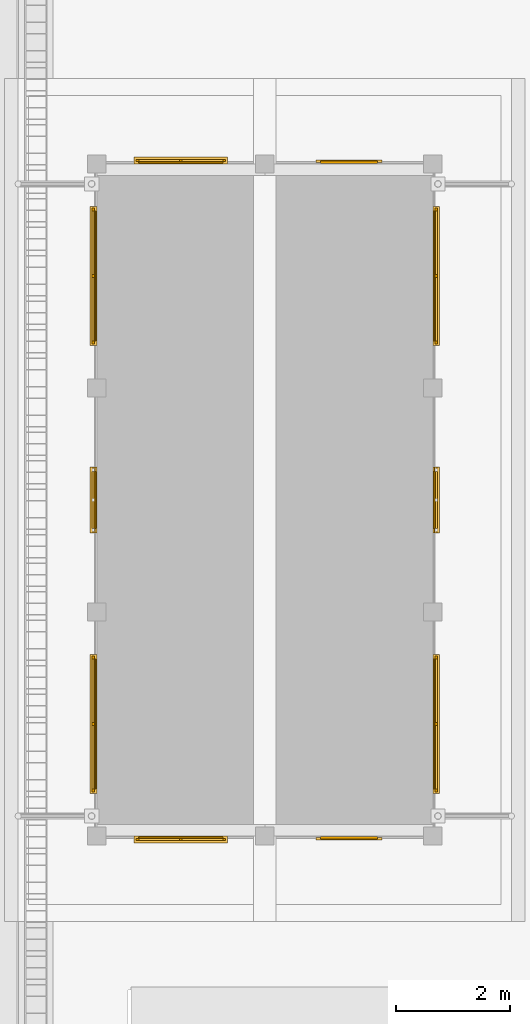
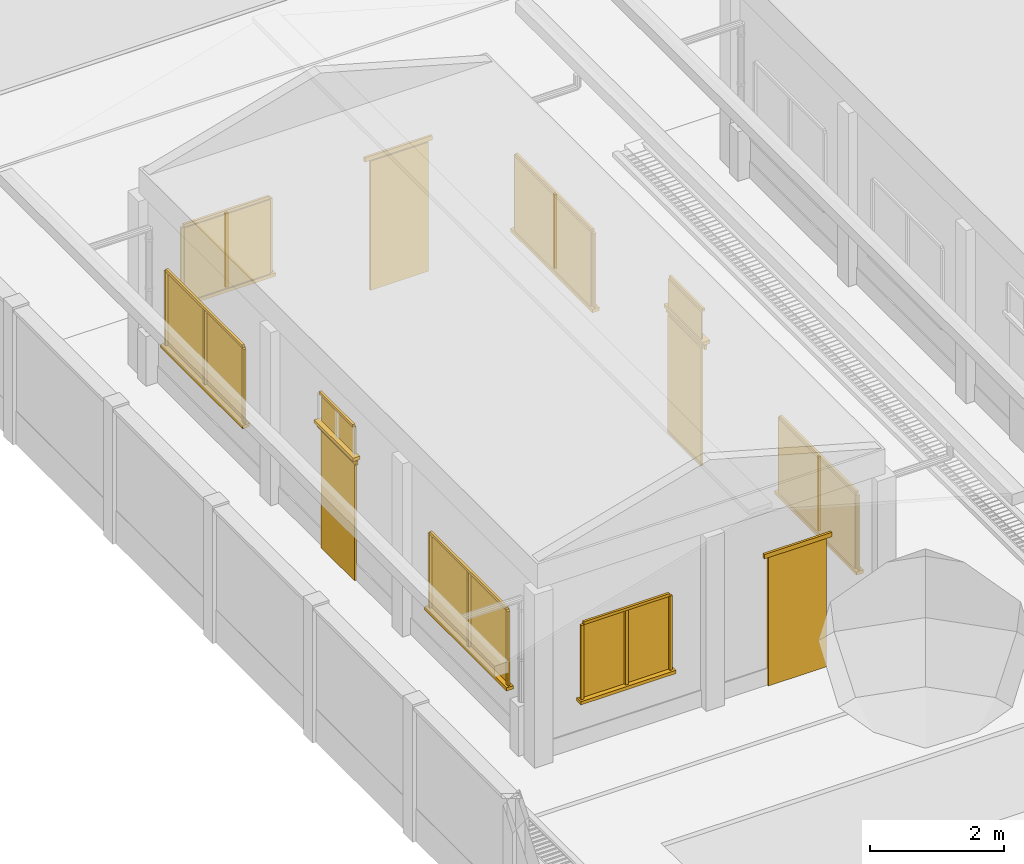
# One storey, part 48 of 166: 42 windows, 8 doors.
"""IFC2X3 building model written with IfcOpenShell, lengths in metres."""

from ifc_helpers import new_model, si_unit, origin, origin_with_axes, place, context, subcontext, project, spatial, faceted_brep, element, save


model = new_model("IFC2X3")

# Units and contexts
model_context = context("Model", 3, precision=1e-05, world=origin_with_axes())
body_context = subcontext(model_context, "Body", "Model", "MODEL_VIEW")
ifc_project = project(units=[si_unit("LENGTHUNIT", "METRE"), si_unit("AREAUNIT", "SQUARE_METRE"), si_unit("VOLUMEUNIT", "CUBIC_METRE"), si_unit("PLANEANGLEUNIT", "RADIAN")], contexts=[model_context])

# Site, building, storey
site_placement = place(None, origin_with_axes())
site = spatial("IfcSite", under=ifc_project, at=site_placement, Name="Predio Los Mangos - Morales, San Martín", CompositionType="ELEMENT")
building_placement = place(site_placement, origin())
building = spatial("IfcBuilding", under=site, at=building_placement, Name="Hogar de Refugio Temporal", CompositionType="ELEMENT")
storey_placement = place(building_placement, origin())
storey = spatial("IfcBuildingStorey", under=building, at=storey_placement, Name="NIVEL 1 (NPT +0.00)", CompositionType="ELEMENT", Elevation=0.0)

# Windows
window_1_placement = place(storey_placement, origin())
element("IfcWindow", 1, at=window_1_placement, inside=storey, Name="E-09_vg0_vid", ObjectType="Ventana", context=body_context, shape_type="Brep", body=[
    faceted_brep([(4.2375, 75.16, 1.05), (4.2375, 75.18, 1.05), (5.7125, 75.18, 1.05), (5.7125, 75.16, 1.05), (4.2375, 75.16, 2.4), (5.7125, 75.16, 2.4), (5.7125, 75.18, 2.4), (4.2375, 75.18, 2.4)], [[[0, 1, 2, 3]], [[4, 5, 6, 7]], [[0, 3, 5, 4]], [[3, 2, 6, 5]], [[2, 1, 7, 6]], [[1, 0, 4, 7]]]),
])
window_2_placement = place(storey_placement, origin())
element("IfcWindow", 2, at=window_2_placement, inside=storey, Name="E-09_vg0_m", ObjectType="Ventana", context=body_context, shape_type="Brep", body=[
    faceted_brep([(4.1875, 75.12, 1.05), (4.1875, 75.16, 1.05), (4.2375, 75.16, 1.05), (4.2375, 75.12, 1.05), (4.1875, 75.12, 2.4), (4.2375, 75.12, 2.4), (4.2375, 75.16, 2.4), (4.1875, 75.16, 2.4)], [[[0, 1, 2, 3]], [[4, 5, 6, 7]], [[0, 3, 5, 4]], [[3, 2, 6, 5]], [[2, 1, 7, 6]], [[1, 0, 4, 7]]]),
])
window_3_placement = place(storey_placement, origin())
element("IfcWindow", 3, at=window_3_placement, inside=storey, Name="E-09_vg0_m", ObjectType="Ventana", context=body_context, shape_type="Brep", body=[
    faceted_brep([(5.7125, 75.12, 1.05), (5.7125, 75.16, 1.05), (5.7625, 75.16, 1.05), (5.7625, 75.12, 1.05), (5.7125, 75.12, 2.4), (5.7625, 75.12, 2.4), (5.7625, 75.16, 2.4), (5.7125, 75.16, 2.4)], [[[0, 1, 2, 3]], [[4, 5, 6, 7]], [[0, 3, 5, 4]], [[3, 2, 6, 5]], [[2, 1, 7, 6]], [[1, 0, 4, 7]]]),
])
window_4_placement = place(storey_placement, origin())
element("IfcWindow", 4, at=window_4_placement, inside=storey, Name="E-09_vg0_m", ObjectType="Ventana", context=body_context, shape_type="Brep", body=[
    faceted_brep([(4.2375, 75.12, 2.4), (4.2375, 75.16, 2.4), (5.7125, 75.16, 2.4), (5.7125, 75.12, 2.4), (4.2375, 75.12, 2.45), (5.7125, 75.12, 2.45), (5.7125, 75.16, 2.45), (4.2375, 75.16, 2.45)], [[[0, 1, 2, 3]], [[4, 5, 6, 7]], [[0, 3, 5, 4]], [[3, 2, 6, 5]], [[2, 1, 7, 6]], [[1, 0, 4, 7]]]),
])
window_5_placement = place(storey_placement, origin())
element("IfcWindow", 5, at=window_5_placement, inside=storey, Name="E-09_vg0_m", ObjectType="Ventana", context=body_context, shape_type="Brep", body=[
    faceted_brep([(4.95, 75.12, 1.05), (4.95, 75.16, 1.05), (5.0, 75.16, 1.05), (5.0, 75.12, 1.05), (4.95, 75.12, 2.4), (5.0, 75.12, 2.4), (5.0, 75.16, 2.4), (4.95, 75.16, 2.4)], [[[0, 1, 2, 3]], [[4, 5, 6, 7]], [[0, 3, 5, 4]], [[3, 2, 6, 5]], [[2, 1, 7, 6]], [[1, 0, 4, 7]]]),
])
window_6_placement = place(storey_placement, origin())
element("IfcWindow", 6, at=window_6_placement, inside=storey, Name="E-09_vg0_alf", ObjectType="Ventana", context=body_context, shape_type="Brep", body=[
    faceted_brep([(4.1575, 75.2, 0.99), (4.1575, 75.08, 0.99), (5.7925, 75.08, 0.99), (5.7925, 75.2, 0.99), (4.1575, 75.2, 1.05), (5.7925, 75.2, 1.05), (5.7925, 75.08, 1.05), (4.1575, 75.08, 1.05)], [[[0, 1, 2, 3]], [[4, 5, 6, 7]], [[0, 3, 5, 4]], [[3, 2, 6, 5]], [[2, 1, 7, 6]], [[1, 0, 4, 7]]]),
])

# Doors
door_1_placement = place(storey_placement, origin())
element("IfcDoor", 7, at=door_1_placement, inside=storey, Name="E-09_pp", ObjectType="Puerta", context=body_context, shape_type="Brep", body=[
    faceted_brep([(7.425, 75.15, 0.15), (7.425, 75.19, 0.15), (8.425, 75.19, 0.15), (8.425, 75.15, 0.15), (7.425, 75.15, 2.5), (8.425, 75.15, 2.5), (8.425, 75.19, 2.5), (7.425, 75.19, 2.5)], [[[0, 1, 2, 3]], [[4, 5, 6, 7]], [[0, 3, 5, 4]], [[3, 2, 6, 5]], [[2, 1, 7, 6]], [[1, 0, 4, 7]]]),
])
door_2_placement = place(storey_placement, origin())
element("IfcDoor", 8, at=door_2_placement, inside=storey, Name="E-09_pp_marco", ObjectType="Puerta", context=body_context, shape_type="Brep", body=[
    faceted_brep([(7.345, 75.13, 2.5), (7.345, 75.17, 2.5), (8.505, 75.17, 2.5), (8.505, 75.13, 2.5), (7.345, 75.13, 2.58), (8.505, 75.13, 2.58), (8.505, 75.17, 2.58), (7.345, 75.17, 2.58)], [[[0, 1, 2, 3]], [[4, 5, 6, 7]], [[0, 3, 5, 4]], [[3, 2, 6, 5]], [[2, 1, 7, 6]], [[1, 0, 4, 7]]]),
])

# Windows
window_7_placement = place(storey_placement, origin())
element("IfcWindow", 9, at=window_7_placement, inside=storey, Name="E-09_vg0_vid", ObjectType="Ventana", context=body_context, shape_type="Brep", body=[
    faceted_brep([(4.2375, 87.02, 1.05), (4.2375, 87.04, 1.05), (5.7125, 87.04, 1.05), (5.7125, 87.02, 1.05), (4.2375, 87.02, 2.4), (5.7125, 87.02, 2.4), (5.7125, 87.04, 2.4), (4.2375, 87.04, 2.4)], [[[0, 1, 2, 3]], [[4, 5, 6, 7]], [[0, 3, 5, 4]], [[3, 2, 6, 5]], [[2, 1, 7, 6]], [[1, 0, 4, 7]]]),
])
window_8_placement = place(storey_placement, origin())
element("IfcWindow", 10, at=window_8_placement, inside=storey, Name="E-09_vg0_m", ObjectType="Ventana", context=body_context, shape_type="Brep", body=[
    faceted_brep([(4.1875, 87.04, 1.05), (4.1875, 87.08, 1.05), (4.2375, 87.08, 1.05), (4.2375, 87.04, 1.05), (4.1875, 87.04, 2.4), (4.2375, 87.04, 2.4), (4.2375, 87.08, 2.4), (4.1875, 87.08, 2.4)], [[[0, 1, 2, 3]], [[4, 5, 6, 7]], [[0, 3, 5, 4]], [[3, 2, 6, 5]], [[2, 1, 7, 6]], [[1, 0, 4, 7]]]),
])
window_9_placement = place(storey_placement, origin())
element("IfcWindow", 11, at=window_9_placement, inside=storey, Name="E-09_vg0_m", ObjectType="Ventana", context=body_context, shape_type="Brep", body=[
    faceted_brep([(5.7125, 87.04, 1.05), (5.7125, 87.08, 1.05), (5.7625, 87.08, 1.05), (5.7625, 87.04, 1.05), (5.7125, 87.04, 2.4), (5.7625, 87.04, 2.4), (5.7625, 87.08, 2.4), (5.7125, 87.08, 2.4)], [[[0, 1, 2, 3]], [[4, 5, 6, 7]], [[0, 3, 5, 4]], [[3, 2, 6, 5]], [[2, 1, 7, 6]], [[1, 0, 4, 7]]]),
])
window_10_placement = place(storey_placement, origin())
element("IfcWindow", 12, at=window_10_placement, inside=storey, Name="E-09_vg0_m", ObjectType="Ventana", context=body_context, shape_type="Brep", body=[
    faceted_brep([(4.2375, 87.04, 2.4), (4.2375, 87.08, 2.4), (5.7125, 87.08, 2.4), (5.7125, 87.04, 2.4), (4.2375, 87.04, 2.45), (5.7125, 87.04, 2.45), (5.7125, 87.08, 2.45), (4.2375, 87.08, 2.45)], [[[0, 1, 2, 3]], [[4, 5, 6, 7]], [[0, 3, 5, 4]], [[3, 2, 6, 5]], [[2, 1, 7, 6]], [[1, 0, 4, 7]]]),
])
window_11_placement = place(storey_placement, origin())
element("IfcWindow", 13, at=window_11_placement, inside=storey, Name="E-09_vg0_m", ObjectType="Ventana", context=body_context, shape_type="Brep", body=[
    faceted_brep([(4.95, 87.04, 1.05), (4.95, 87.08, 1.05), (5.0, 87.08, 1.05), (5.0, 87.04, 1.05), (4.95, 87.04, 2.4), (5.0, 87.04, 2.4), (5.0, 87.08, 2.4), (4.95, 87.08, 2.4)], [[[0, 1, 2, 3]], [[4, 5, 6, 7]], [[0, 3, 5, 4]], [[3, 2, 6, 5]], [[2, 1, 7, 6]], [[1, 0, 4, 7]]]),
])
window_12_placement = place(storey_placement, origin())
element("IfcWindow", 14, at=window_12_placement, inside=storey, Name="E-09_vg0_alf", ObjectType="Ventana", context=body_context, shape_type="Brep", body=[
    faceted_brep([(4.1575, 87.0, 0.99), (4.1575, 87.12, 0.99), (5.7925, 87.12, 0.99), (5.7925, 87.0, 0.99), (4.1575, 87.0, 1.05), (5.7925, 87.0, 1.05), (5.7925, 87.12, 1.05), (4.1575, 87.12, 1.05)], [[[0, 1, 2, 3]], [[4, 5, 6, 7]], [[0, 3, 5, 4]], [[3, 2, 6, 5]], [[2, 1, 7, 6]], [[1, 0, 4, 7]]]),
])

# Doors
door_3_placement = place(storey_placement, origin())
element("IfcDoor", 15, at=door_3_placement, inside=storey, Name="E-09_pp", ObjectType="Puerta", context=body_context, shape_type="Brep", body=[
    faceted_brep([(7.425, 87.01, 0.15), (7.425, 87.05, 0.15), (8.425, 87.05, 0.15), (8.425, 87.01, 0.15), (7.425, 87.01, 2.5), (8.425, 87.01, 2.5), (8.425, 87.05, 2.5), (7.425, 87.05, 2.5)], [[[0, 1, 2, 3]], [[4, 5, 6, 7]], [[0, 3, 5, 4]], [[3, 2, 6, 5]], [[2, 1, 7, 6]], [[1, 0, 4, 7]]]),
])
door_4_placement = place(storey_placement, origin())
element("IfcDoor", 16, at=door_4_placement, inside=storey, Name="E-09_pp_marco", ObjectType="Puerta", context=body_context, shape_type="Brep", body=[
    faceted_brep([(7.345, 87.03, 2.5), (7.345, 87.07, 2.5), (8.505, 87.07, 2.5), (8.505, 87.03, 2.5), (7.345, 87.03, 2.58), (8.505, 87.03, 2.58), (8.505, 87.07, 2.58), (7.345, 87.07, 2.58)], [[[0, 1, 2, 3]], [[4, 5, 6, 7]], [[0, 3, 5, 4]], [[3, 2, 6, 5]], [[2, 1, 7, 6]], [[1, 0, 4, 7]]]),
])

# Windows
window_13_placement = place(storey_placement, origin())
element("IfcWindow", 17, at=window_13_placement, inside=storey, Name="E-09_v0_vid", ObjectType="Ventana", context=body_context, shape_type="Brep", body=[
    faceted_brep([(3.46, 76.026, 1.05), (3.46, 78.3073, 1.05), (3.48, 78.3073, 1.05), (3.48, 76.026, 1.05), (3.46, 76.026, 2.4), (3.48, 76.026, 2.4), (3.48, 78.3073, 2.4), (3.46, 78.3073, 2.4)], [[[0, 1, 2, 3]], [[4, 5, 6, 7]], [[0, 3, 5, 4]], [[3, 2, 6, 5]], [[2, 1, 7, 6]], [[1, 0, 4, 7]]]),
])
window_14_placement = place(storey_placement, origin())
element("IfcWindow", 18, at=window_14_placement, inside=storey, Name="E-09_v0_m", ObjectType="Ventana", context=body_context, shape_type="Brep", body=[
    faceted_brep([(3.42, 75.976, 1.05), (3.42, 76.026, 1.05), (3.46, 76.026, 1.05), (3.46, 75.976, 1.05), (3.42, 75.976, 2.4), (3.46, 75.976, 2.4), (3.46, 76.026, 2.4), (3.42, 76.026, 2.4)], [[[0, 1, 2, 3]], [[4, 5, 6, 7]], [[0, 3, 5, 4]], [[3, 2, 6, 5]], [[2, 1, 7, 6]], [[1, 0, 4, 7]]]),
])
window_15_placement = place(storey_placement, origin())
element("IfcWindow", 19, at=window_15_placement, inside=storey, Name="E-09_v0_m", ObjectType="Ventana", context=body_context, shape_type="Brep", body=[
    faceted_brep([(3.42, 78.3073, 1.05), (3.42, 78.3573, 1.05), (3.46, 78.3573, 1.05), (3.46, 78.3073, 1.05), (3.42, 78.3073, 2.4), (3.46, 78.3073, 2.4), (3.46, 78.3573, 2.4), (3.42, 78.3573, 2.4)], [[[0, 1, 2, 3]], [[4, 5, 6, 7]], [[0, 3, 5, 4]], [[3, 2, 6, 5]], [[2, 1, 7, 6]], [[1, 0, 4, 7]]]),
])
window_16_placement = place(storey_placement, origin())
element("IfcWindow", 20, at=window_16_placement, inside=storey, Name="E-09_v0_m", ObjectType="Ventana", context=body_context, shape_type="Brep", body=[
    faceted_brep([(3.42, 76.026, 2.4), (3.42, 78.3073, 2.4), (3.46, 78.3073, 2.4), (3.46, 76.026, 2.4), (3.42, 76.026, 2.45), (3.46, 76.026, 2.45), (3.46, 78.3073, 2.45), (3.42, 78.3073, 2.45)], [[[0, 1, 2, 3]], [[4, 5, 6, 7]], [[0, 3, 5, 4]], [[3, 2, 6, 5]], [[2, 1, 7, 6]], [[1, 0, 4, 7]]]),
])
window_17_placement = place(storey_placement, origin())
element("IfcWindow", 21, at=window_17_placement, inside=storey, Name="E-09_v0_m", ObjectType="Ventana", context=body_context, shape_type="Brep", body=[
    faceted_brep([(3.42, 77.1417, 1.05), (3.42, 77.1917, 1.05), (3.46, 77.1917, 1.05), (3.46, 77.1417, 1.05), (3.42, 77.1417, 2.4), (3.46, 77.1417, 2.4), (3.46, 77.1917, 2.4), (3.42, 77.1917, 2.4)], [[[0, 1, 2, 3]], [[4, 5, 6, 7]], [[0, 3, 5, 4]], [[3, 2, 6, 5]], [[2, 1, 7, 6]], [[1, 0, 4, 7]]]),
])
window_18_placement = place(storey_placement, origin())
element("IfcWindow", 22, at=window_18_placement, inside=storey, Name="E-09_v0_alf", ObjectType="Ventana", context=body_context, shape_type="Brep", body=[
    faceted_brep([(3.5, 75.946, 0.99), (3.5, 78.3873, 0.99), (3.38, 78.3873, 0.99), (3.38, 75.946, 0.99), (3.5, 75.946, 1.05), (3.38, 75.946, 1.05), (3.38, 78.3873, 1.05), (3.5, 78.3873, 1.05)], [[[0, 1, 2, 3]], [[4, 5, 6, 7]], [[0, 3, 5, 4]], [[3, 2, 6, 5]], [[2, 1, 7, 6]], [[1, 0, 4, 7]]]),
])

# Doors
door_5_placement = place(storey_placement, origin())
element("IfcDoor", 23, at=door_5_placement, inside=storey, Name="E-09_p1", ObjectType="Puerta", context=body_context, shape_type="Brep", body=[
    faceted_brep([(3.45, 80.6, 0.15), (3.45, 81.6, 0.15), (3.49, 81.6, 0.15), (3.49, 80.6, 0.15), (3.45, 80.6, 2.3), (3.49, 80.6, 2.3), (3.49, 81.6, 2.3), (3.45, 81.6, 2.3)], [[[0, 1, 2, 3]], [[4, 5, 6, 7]], [[0, 3, 5, 4]], [[3, 2, 6, 5]], [[2, 1, 7, 6]], [[1, 0, 4, 7]]]),
])
door_6_placement = place(storey_placement, origin())
element("IfcDoor", 24, at=door_6_placement, inside=storey, Name="E-09_p1_marco", ObjectType="Puerta", context=body_context, shape_type="Brep", body=[
    faceted_brep([(3.43, 80.52, 2.3), (3.43, 81.68, 2.3), (3.47, 81.68, 2.3), (3.47, 80.52, 2.3), (3.43, 80.52, 2.38), (3.47, 80.52, 2.38), (3.47, 81.68, 2.38), (3.43, 81.68, 2.38)], [[[0, 1, 2, 3]], [[4, 5, 6, 7]], [[0, 3, 5, 4]], [[3, 2, 6, 5]], [[2, 1, 7, 6]], [[1, 0, 4, 7]]]),
])

# Windows
window_19_placement = place(storey_placement, origin())
element("IfcWindow", 25, at=window_19_placement, inside=storey, Name="E-09_vt1_vid", ObjectType="Ventana", context=body_context, shape_type="Brep", body=[
    faceted_brep([(3.46, 80.6, 2.45), (3.46, 81.6, 2.45), (3.48, 81.6, 2.45), (3.48, 80.6, 2.45), (3.46, 80.6, 2.95), (3.48, 80.6, 2.95), (3.48, 81.6, 2.95), (3.46, 81.6, 2.95)], [[[0, 1, 2, 3]], [[4, 5, 6, 7]], [[0, 3, 5, 4]], [[3, 2, 6, 5]], [[2, 1, 7, 6]], [[1, 0, 4, 7]]]),
])
window_20_placement = place(storey_placement, origin())
element("IfcWindow", 26, at=window_20_placement, inside=storey, Name="E-09_vt1_m", ObjectType="Ventana", context=body_context, shape_type="Brep", body=[
    faceted_brep([(3.42, 80.6, 2.95), (3.42, 81.6, 2.95), (3.46, 81.6, 2.95), (3.46, 80.6, 2.95), (3.42, 80.6, 3.0), (3.46, 80.6, 3.0), (3.46, 81.6, 3.0), (3.42, 81.6, 3.0)], [[[0, 1, 2, 3]], [[4, 5, 6, 7]], [[0, 3, 5, 4]], [[3, 2, 6, 5]], [[2, 1, 7, 6]], [[1, 0, 4, 7]]]),
])
window_21_placement = place(storey_placement, origin())
element("IfcWindow", 27, at=window_21_placement, inside=storey, Name="E-09_vt1_alf", ObjectType="Ventana", context=body_context, shape_type="Brep", body=[
    faceted_brep([(3.5, 80.52, 2.39), (3.5, 81.68, 2.39), (3.38, 81.68, 2.39), (3.38, 80.52, 2.39), (3.5, 80.52, 2.45), (3.38, 80.52, 2.45), (3.38, 81.68, 2.45), (3.5, 81.68, 2.45)], [[[0, 1, 2, 3]], [[4, 5, 6, 7]], [[0, 3, 5, 4]], [[3, 2, 6, 5]], [[2, 1, 7, 6]], [[1, 0, 4, 7]]]),
])
window_22_placement = place(storey_placement, origin())
element("IfcWindow", 28, at=window_22_placement, inside=storey, Name="E-09_v2_vid", ObjectType="Ventana", context=body_context, shape_type="Brep", body=[
    faceted_brep([(3.46, 83.8927, 1.05), (3.46, 86.174, 1.05), (3.48, 86.174, 1.05), (3.48, 83.8927, 1.05), (3.46, 83.8927, 2.4), (3.48, 83.8927, 2.4), (3.48, 86.174, 2.4), (3.46, 86.174, 2.4)], [[[0, 1, 2, 3]], [[4, 5, 6, 7]], [[0, 3, 5, 4]], [[3, 2, 6, 5]], [[2, 1, 7, 6]], [[1, 0, 4, 7]]]),
])
window_23_placement = place(storey_placement, origin())
element("IfcWindow", 29, at=window_23_placement, inside=storey, Name="E-09_v2_m", ObjectType="Ventana", context=body_context, shape_type="Brep", body=[
    faceted_brep([(3.42, 83.8427, 1.05), (3.42, 83.8927, 1.05), (3.46, 83.8927, 1.05), (3.46, 83.8427, 1.05), (3.42, 83.8427, 2.4), (3.46, 83.8427, 2.4), (3.46, 83.8927, 2.4), (3.42, 83.8927, 2.4)], [[[0, 1, 2, 3]], [[4, 5, 6, 7]], [[0, 3, 5, 4]], [[3, 2, 6, 5]], [[2, 1, 7, 6]], [[1, 0, 4, 7]]]),
])
window_24_placement = place(storey_placement, origin())
element("IfcWindow", 30, at=window_24_placement, inside=storey, Name="E-09_v2_m", ObjectType="Ventana", context=body_context, shape_type="Brep", body=[
    faceted_brep([(3.42, 86.174, 1.05), (3.42, 86.224, 1.05), (3.46, 86.224, 1.05), (3.46, 86.174, 1.05), (3.42, 86.174, 2.4), (3.46, 86.174, 2.4), (3.46, 86.224, 2.4), (3.42, 86.224, 2.4)], [[[0, 1, 2, 3]], [[4, 5, 6, 7]], [[0, 3, 5, 4]], [[3, 2, 6, 5]], [[2, 1, 7, 6]], [[1, 0, 4, 7]]]),
])
window_25_placement = place(storey_placement, origin())
element("IfcWindow", 31, at=window_25_placement, inside=storey, Name="E-09_v2_m", ObjectType="Ventana", context=body_context, shape_type="Brep", body=[
    faceted_brep([(3.42, 83.8927, 2.4), (3.42, 86.174, 2.4), (3.46, 86.174, 2.4), (3.46, 83.8927, 2.4), (3.42, 83.8927, 2.45), (3.46, 83.8927, 2.45), (3.46, 86.174, 2.45), (3.42, 86.174, 2.45)], [[[0, 1, 2, 3]], [[4, 5, 6, 7]], [[0, 3, 5, 4]], [[3, 2, 6, 5]], [[2, 1, 7, 6]], [[1, 0, 4, 7]]]),
])
window_26_placement = place(storey_placement, origin())
element("IfcWindow", 32, at=window_26_placement, inside=storey, Name="E-09_v2_m", ObjectType="Ventana", context=body_context, shape_type="Brep", body=[
    faceted_brep([(3.42, 85.0083, 1.05), (3.42, 85.0583, 1.05), (3.46, 85.0583, 1.05), (3.46, 85.0083, 1.05), (3.42, 85.0083, 2.4), (3.46, 85.0083, 2.4), (3.46, 85.0583, 2.4), (3.42, 85.0583, 2.4)], [[[0, 1, 2, 3]], [[4, 5, 6, 7]], [[0, 3, 5, 4]], [[3, 2, 6, 5]], [[2, 1, 7, 6]], [[1, 0, 4, 7]]]),
])
window_27_placement = place(storey_placement, origin())
element("IfcWindow", 33, at=window_27_placement, inside=storey, Name="E-09_v2_alf", ObjectType="Ventana", context=body_context, shape_type="Brep", body=[
    faceted_brep([(3.5, 83.8127, 0.99), (3.5, 86.254, 0.99), (3.38, 86.254, 0.99), (3.38, 83.8127, 0.99), (3.5, 83.8127, 1.05), (3.38, 83.8127, 1.05), (3.38, 86.254, 1.05), (3.5, 86.254, 1.05)], [[[0, 1, 2, 3]], [[4, 5, 6, 7]], [[0, 3, 5, 4]], [[3, 2, 6, 5]], [[2, 1, 7, 6]], [[1, 0, 4, 7]]]),
])
window_28_placement = place(storey_placement, origin())
element("IfcWindow", 34, at=window_28_placement, inside=storey, Name="E-09_v0_vid", ObjectType="Ventana", context=body_context, shape_type="Brep", body=[
    faceted_brep([(9.42, 76.026, 1.05), (9.42, 78.3073, 1.05), (9.44, 78.3073, 1.05), (9.44, 76.026, 1.05), (9.42, 76.026, 2.4), (9.44, 76.026, 2.4), (9.44, 78.3073, 2.4), (9.42, 78.3073, 2.4)], [[[0, 1, 2, 3]], [[4, 5, 6, 7]], [[0, 3, 5, 4]], [[3, 2, 6, 5]], [[2, 1, 7, 6]], [[1, 0, 4, 7]]]),
])
window_29_placement = place(storey_placement, origin())
element("IfcWindow", 35, at=window_29_placement, inside=storey, Name="E-09_v0_m", ObjectType="Ventana", context=body_context, shape_type="Brep", body=[
    faceted_brep([(9.44, 75.976, 1.05), (9.44, 76.026, 1.05), (9.48, 76.026, 1.05), (9.48, 75.976, 1.05), (9.44, 75.976, 2.4), (9.48, 75.976, 2.4), (9.48, 76.026, 2.4), (9.44, 76.026, 2.4)], [[[0, 1, 2, 3]], [[4, 5, 6, 7]], [[0, 3, 5, 4]], [[3, 2, 6, 5]], [[2, 1, 7, 6]], [[1, 0, 4, 7]]]),
])
window_30_placement = place(storey_placement, origin())
element("IfcWindow", 36, at=window_30_placement, inside=storey, Name="E-09_v0_m", ObjectType="Ventana", context=body_context, shape_type="Brep", body=[
    faceted_brep([(9.44, 78.3073, 1.05), (9.44, 78.3573, 1.05), (9.48, 78.3573, 1.05), (9.48, 78.3073, 1.05), (9.44, 78.3073, 2.4), (9.48, 78.3073, 2.4), (9.48, 78.3573, 2.4), (9.44, 78.3573, 2.4)], [[[0, 1, 2, 3]], [[4, 5, 6, 7]], [[0, 3, 5, 4]], [[3, 2, 6, 5]], [[2, 1, 7, 6]], [[1, 0, 4, 7]]]),
])
window_31_placement = place(storey_placement, origin())
element("IfcWindow", 37, at=window_31_placement, inside=storey, Name="E-09_v0_m", ObjectType="Ventana", context=body_context, shape_type="Brep", body=[
    faceted_brep([(9.44, 76.026, 2.4), (9.44, 78.3073, 2.4), (9.48, 78.3073, 2.4), (9.48, 76.026, 2.4), (9.44, 76.026, 2.45), (9.48, 76.026, 2.45), (9.48, 78.3073, 2.45), (9.44, 78.3073, 2.45)], [[[0, 1, 2, 3]], [[4, 5, 6, 7]], [[0, 3, 5, 4]], [[3, 2, 6, 5]], [[2, 1, 7, 6]], [[1, 0, 4, 7]]]),
])
window_32_placement = place(storey_placement, origin())
element("IfcWindow", 38, at=window_32_placement, inside=storey, Name="E-09_v0_m", ObjectType="Ventana", context=body_context, shape_type="Brep", body=[
    faceted_brep([(9.44, 77.1417, 1.05), (9.44, 77.1917, 1.05), (9.48, 77.1917, 1.05), (9.48, 77.1417, 1.05), (9.44, 77.1417, 2.4), (9.48, 77.1417, 2.4), (9.48, 77.1917, 2.4), (9.44, 77.1917, 2.4)], [[[0, 1, 2, 3]], [[4, 5, 6, 7]], [[0, 3, 5, 4]], [[3, 2, 6, 5]], [[2, 1, 7, 6]], [[1, 0, 4, 7]]]),
])
window_33_placement = place(storey_placement, origin())
element("IfcWindow", 39, at=window_33_placement, inside=storey, Name="E-09_v0_alf", ObjectType="Ventana", context=body_context, shape_type="Brep", body=[
    faceted_brep([(9.4, 75.946, 0.99), (9.4, 78.3873, 0.99), (9.52, 78.3873, 0.99), (9.52, 75.946, 0.99), (9.4, 75.946, 1.05), (9.52, 75.946, 1.05), (9.52, 78.3873, 1.05), (9.4, 78.3873, 1.05)], [[[0, 1, 2, 3]], [[4, 5, 6, 7]], [[0, 3, 5, 4]], [[3, 2, 6, 5]], [[2, 1, 7, 6]], [[1, 0, 4, 7]]]),
])

# Doors
door_7_placement = place(storey_placement, origin())
element("IfcDoor", 40, at=door_7_placement, inside=storey, Name="E-09_p1", ObjectType="Puerta", context=body_context, shape_type="Brep", body=[
    faceted_brep([(9.41, 80.6, 0.15), (9.41, 81.6, 0.15), (9.45, 81.6, 0.15), (9.45, 80.6, 0.15), (9.41, 80.6, 2.3), (9.45, 80.6, 2.3), (9.45, 81.6, 2.3), (9.41, 81.6, 2.3)], [[[0, 1, 2, 3]], [[4, 5, 6, 7]], [[0, 3, 5, 4]], [[3, 2, 6, 5]], [[2, 1, 7, 6]], [[1, 0, 4, 7]]]),
])
door_8_placement = place(storey_placement, origin())
element("IfcDoor", 41, at=door_8_placement, inside=storey, Name="E-09_p1_marco", ObjectType="Puerta", context=body_context, shape_type="Brep", body=[
    faceted_brep([(9.43, 80.52, 2.3), (9.43, 81.68, 2.3), (9.47, 81.68, 2.3), (9.47, 80.52, 2.3), (9.43, 80.52, 2.38), (9.47, 80.52, 2.38), (9.47, 81.68, 2.38), (9.43, 81.68, 2.38)], [[[0, 1, 2, 3]], [[4, 5, 6, 7]], [[0, 3, 5, 4]], [[3, 2, 6, 5]], [[2, 1, 7, 6]], [[1, 0, 4, 7]]]),
])

# Windows
window_34_placement = place(storey_placement, origin())
element("IfcWindow", 42, at=window_34_placement, inside=storey, Name="E-09_vt1_vid", ObjectType="Ventana", context=body_context, shape_type="Brep", body=[
    faceted_brep([(9.42, 80.6, 2.45), (9.42, 81.6, 2.45), (9.44, 81.6, 2.45), (9.44, 80.6, 2.45), (9.42, 80.6, 2.95), (9.44, 80.6, 2.95), (9.44, 81.6, 2.95), (9.42, 81.6, 2.95)], [[[0, 1, 2, 3]], [[4, 5, 6, 7]], [[0, 3, 5, 4]], [[3, 2, 6, 5]], [[2, 1, 7, 6]], [[1, 0, 4, 7]]]),
])
window_35_placement = place(storey_placement, origin())
element("IfcWindow", 43, at=window_35_placement, inside=storey, Name="E-09_vt1_m", ObjectType="Ventana", context=body_context, shape_type="Brep", body=[
    faceted_brep([(9.44, 80.6, 2.95), (9.44, 81.6, 2.95), (9.48, 81.6, 2.95), (9.48, 80.6, 2.95), (9.44, 80.6, 3.0), (9.48, 80.6, 3.0), (9.48, 81.6, 3.0), (9.44, 81.6, 3.0)], [[[0, 1, 2, 3]], [[4, 5, 6, 7]], [[0, 3, 5, 4]], [[3, 2, 6, 5]], [[2, 1, 7, 6]], [[1, 0, 4, 7]]]),
])
window_36_placement = place(storey_placement, origin())
element("IfcWindow", 44, at=window_36_placement, inside=storey, Name="E-09_vt1_alf", ObjectType="Ventana", context=body_context, shape_type="Brep", body=[
    faceted_brep([(9.4, 80.52, 2.39), (9.4, 81.68, 2.39), (9.52, 81.68, 2.39), (9.52, 80.52, 2.39), (9.4, 80.52, 2.45), (9.52, 80.52, 2.45), (9.52, 81.68, 2.45), (9.4, 81.68, 2.45)], [[[0, 1, 2, 3]], [[4, 5, 6, 7]], [[0, 3, 5, 4]], [[3, 2, 6, 5]], [[2, 1, 7, 6]], [[1, 0, 4, 7]]]),
])
window_37_placement = place(storey_placement, origin())
element("IfcWindow", 45, at=window_37_placement, inside=storey, Name="E-09_v2_vid", ObjectType="Ventana", context=body_context, shape_type="Brep", body=[
    faceted_brep([(9.42, 83.8927, 1.05), (9.42, 86.174, 1.05), (9.44, 86.174, 1.05), (9.44, 83.8927, 1.05), (9.42, 83.8927, 2.4), (9.44, 83.8927, 2.4), (9.44, 86.174, 2.4), (9.42, 86.174, 2.4)], [[[0, 1, 2, 3]], [[4, 5, 6, 7]], [[0, 3, 5, 4]], [[3, 2, 6, 5]], [[2, 1, 7, 6]], [[1, 0, 4, 7]]]),
])
window_38_placement = place(storey_placement, origin())
element("IfcWindow", 46, at=window_38_placement, inside=storey, Name="E-09_v2_m", ObjectType="Ventana", context=body_context, shape_type="Brep", body=[
    faceted_brep([(9.44, 83.8427, 1.05), (9.44, 83.8927, 1.05), (9.48, 83.8927, 1.05), (9.48, 83.8427, 1.05), (9.44, 83.8427, 2.4), (9.48, 83.8427, 2.4), (9.48, 83.8927, 2.4), (9.44, 83.8927, 2.4)], [[[0, 1, 2, 3]], [[4, 5, 6, 7]], [[0, 3, 5, 4]], [[3, 2, 6, 5]], [[2, 1, 7, 6]], [[1, 0, 4, 7]]]),
])
window_39_placement = place(storey_placement, origin())
element("IfcWindow", 47, at=window_39_placement, inside=storey, Name="E-09_v2_m", ObjectType="Ventana", context=body_context, shape_type="Brep", body=[
    faceted_brep([(9.44, 86.174, 1.05), (9.44, 86.224, 1.05), (9.48, 86.224, 1.05), (9.48, 86.174, 1.05), (9.44, 86.174, 2.4), (9.48, 86.174, 2.4), (9.48, 86.224, 2.4), (9.44, 86.224, 2.4)], [[[0, 1, 2, 3]], [[4, 5, 6, 7]], [[0, 3, 5, 4]], [[3, 2, 6, 5]], [[2, 1, 7, 6]], [[1, 0, 4, 7]]]),
])
window_40_placement = place(storey_placement, origin())
element("IfcWindow", 48, at=window_40_placement, inside=storey, Name="E-09_v2_m", ObjectType="Ventana", context=body_context, shape_type="Brep", body=[
    faceted_brep([(9.44, 83.8927, 2.4), (9.44, 86.174, 2.4), (9.48, 86.174, 2.4), (9.48, 83.8927, 2.4), (9.44, 83.8927, 2.45), (9.48, 83.8927, 2.45), (9.48, 86.174, 2.45), (9.44, 86.174, 2.45)], [[[0, 1, 2, 3]], [[4, 5, 6, 7]], [[0, 3, 5, 4]], [[3, 2, 6, 5]], [[2, 1, 7, 6]], [[1, 0, 4, 7]]]),
])
window_41_placement = place(storey_placement, origin())
element("IfcWindow", 49, at=window_41_placement, inside=storey, Name="E-09_v2_m", ObjectType="Ventana", context=body_context, shape_type="Brep", body=[
    faceted_brep([(9.44, 85.0083, 1.05), (9.44, 85.0583, 1.05), (9.48, 85.0583, 1.05), (9.48, 85.0083, 1.05), (9.44, 85.0083, 2.4), (9.48, 85.0083, 2.4), (9.48, 85.0583, 2.4), (9.44, 85.0583, 2.4)], [[[0, 1, 2, 3]], [[4, 5, 6, 7]], [[0, 3, 5, 4]], [[3, 2, 6, 5]], [[2, 1, 7, 6]], [[1, 0, 4, 7]]]),
])
window_42_placement = place(storey_placement, origin())
element("IfcWindow", 50, at=window_42_placement, inside=storey, Name="E-09_v2_alf", ObjectType="Ventana", context=body_context, shape_type="Brep", body=[
    faceted_brep([(9.4, 83.8127, 0.99), (9.4, 86.254, 0.99), (9.52, 86.254, 0.99), (9.52, 83.8127, 0.99), (9.4, 83.8127, 1.05), (9.52, 83.8127, 1.05), (9.52, 86.254, 1.05), (9.4, 86.254, 1.05)], [[[0, 1, 2, 3]], [[4, 5, 6, 7]], [[0, 3, 5, 4]], [[3, 2, 6, 5]], [[2, 1, 7, 6]], [[1, 0, 4, 7]]]),
])

save(model, "model.ifc")
